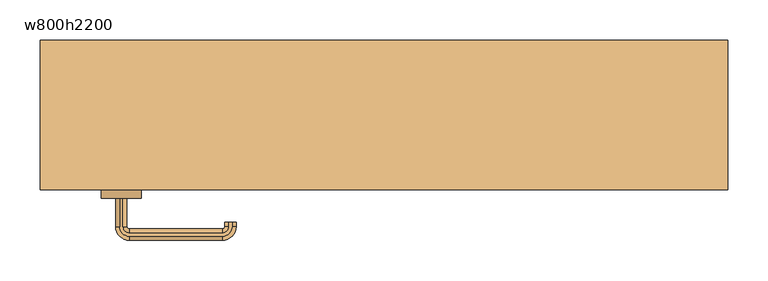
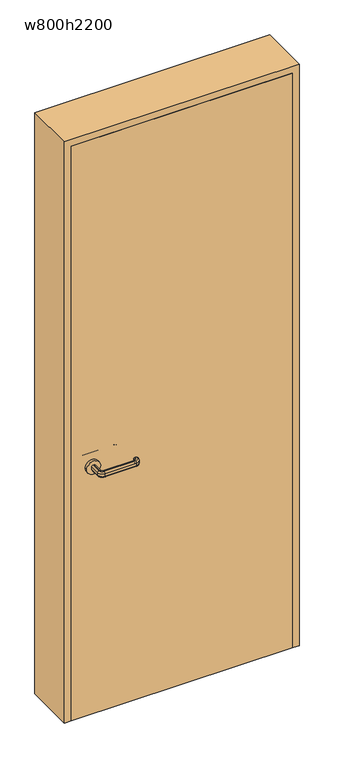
"""IFC4 building model written with IfcOpenShell, lengths in millimetres: door geometry, 片開き : w800h2200."""

from ifc_helpers import new_model, si_unit, point, frame, frame_2d, origin, origin_with_axes, place, context, project, spatial, polyline, circle_curve, ellipse_curve, trimmed, segment, composite_curve, outline, extrude, source, transform, mapped, element, save
from ifc_brep_helpers import plane_surface, cylinder_surface, revolved_surface, advanced_brep


def w800h2200_4894828d(model_context):
    return source(origin(), model_context, "Body", "SolidModel", [
        advanced_brep(
        [(-327.0, -102.5, 960.0), (-323.0, -102.5, 960.0), (-318.0, -102.5, 955.0), (-318.0, -102.5, 945.0477623), (-323.0, -102.5, 940.0477623), (-327.0, -102.5, 940.0477623), (-332.0, -102.5, 945.0477623), (-332.0, -102.5, 955.0), (-332.0, -137.5, 955.0), (-327.0, -137.5, 960.0), (-332.0, -137.5, 945.0477623), (-327.0, -137.5, 940.0477623), (-323.0, -137.5, 940.0477623), (-315.0, -145.5, 940.0477623), (-200.0, -145.5, 940.0477623), (-192.0, -137.5, 940.0477623), (-192.0, -132.5, 940.0477623), (-188.0, -132.5, 940.0477623), (-188.0, -137.5, 940.0477623), (-200.0, -149.5, 940.0477623), (-315.0, -149.5, 940.0477623), (-318.0, -137.5, 945.0477623), (-318.0, -137.5, 955.0), (-323.0, -137.5, 960.0), (-315.0, -149.5, 960.0), (-200.0, -149.5, 960.0), (-188.0, -137.5, 960.0), (-188.0, -132.5, 960.0), (-192.0, -132.5, 960.0), (-192.0, -137.5, 960.0), (-200.0, -145.5, 960.0), (-315.0, -145.5, 960.0), (-315.0, -154.5, 955.0), (-315.0, -154.5, 945.0477623), (-315.0, -140.5, 945.0477623), (-315.0, -140.5, 955.0), (-200.0, -154.5, 955.0), (-200.0, -154.5, 945.0477623), (-200.0, -140.5, 945.0477623), (-200.0, -140.5, 955.0), (-183.0, -137.5, 955.0), (-183.0, -137.5, 945.0477623), (-197.0, -137.5, 945.0477623), (-197.0, -137.5, 955.0), (-183.0, -132.5, 955.0), (-183.0, -132.5, 945.0477623), (-197.0, -132.5, 945.0477623), (-197.0, -132.5, 955.0)],
        [
            (0, 1),
            (1, 2, circle_curve(frame((-323.0, -102.5, 955.0), z_axis=(0.0, 1.0, 0.0), x_axis=(-1.0, 0.0, 0.0)), 5.0)),
            (2, 3),
            (3, 4, circle_curve(frame((-323.0, -102.5, 945.0477623), z_axis=(0.0, 1.0, 0.0), x_axis=(-1.0, 0.0, 0.0)), 5.0)),
            (4, 5),
            (5, 6, circle_curve(frame((-327.0, -102.5, 945.0477623), z_axis=(0.0, 1.0, 0.0), x_axis=(-1.0, 0.0, 0.0)), 5.0)),
            (6, 7),
            (7, 0, circle_curve(frame((-327.0, -102.5, 955.0), z_axis=(0.0, 1.0, 0.0), x_axis=(-1.0, 0.0, 0.0)), 5.0)),
            (7, 8),
            (8, 9, circle_curve(frame((-327.0, -137.5, 955.0), z_axis=(0.0, 1.0, 0.0), x_axis=(-1.0, 0.0, 0.0)), 5.0)),
            (9, 0),
            (6, 10),
            (10, 8),
            (5, 11),
            (11, 10, circle_curve(frame((-327.0, -137.5, 945.0477623), z_axis=(0.0, 1.0, 0.0), x_axis=(-1.0, 0.0, 0.0)), 5.0)),
            (4, 12),
            (12, 13, circle_curve(frame((-315.0, -137.5, 940.0477623), z_axis=(0.0, 0.0, 1.0), x_axis=(-1.0, 0.0, 0.0)), 8.0)),
            (13, 14),
            (14, 15, circle_curve(frame((-200.0, -137.5, 940.0477623), z_axis=(0.0, 0.0, 1.0), x_axis=(0.0, -1.0, 0.0)), 8.0)),
            (15, 16),
            (16, 17),
            (17, 18),
            (18, 19, circle_curve(frame((-200.0, -137.5, 940.0477623), z_axis=(0.0, 0.0, -1.0), x_axis=(0.0, -1.0, 0.0)), 12.0)),
            (19, 20),
            (20, 11, circle_curve(frame((-315.0, -137.5, 940.0477623), z_axis=(0.0, 0.0, -1.0), x_axis=(-1.0, 0.0, 0.0)), 12.0)),
            (3, 21),
            (21, 12, circle_curve(frame((-323.0, -137.5, 945.0477623), z_axis=(0.0, 1.0, 0.0), x_axis=(-1.0, 0.0, 0.0)), 5.0)),
            (2, 22),
            (22, 21),
            (1, 23),
            (23, 22, circle_curve(frame((-323.0, -137.5, 955.0), z_axis=(0.0, 1.0, 0.0), x_axis=(-1.0, 0.0, 0.0)), 5.0)),
            (9, 24, circle_curve(frame((-315.0, -137.5, 960.0), z_axis=(0.0, 0.0, 1.0), x_axis=(-1.0, 0.0, 0.0)), 12.0)),
            (24, 25),
            (25, 26, circle_curve(frame((-200.0, -137.5, 960.0), z_axis=(0.0, 0.0, 1.0), x_axis=(0.0, -1.0, 0.0)), 12.0)),
            (26, 27),
            (27, 28),
            (28, 29),
            (29, 30, circle_curve(frame((-200.0, -137.5, 960.0), z_axis=(0.0, 0.0, -1.0), x_axis=(0.0, -1.0, 0.0)), 8.0)),
            (30, 31),
            (31, 23, circle_curve(frame((-315.0, -137.5, 960.0), z_axis=(0.0, 0.0, -1.0), x_axis=(-1.0, 0.0, 0.0)), 8.0)),
            (32, 24, circle_curve(frame((-315.0, -149.5, 955.0), z_axis=(-1.0, 0.0, 0.0), x_axis=(0.0, -1.0, 0.0)), 5.0)),
            (8, 32, circle_curve(frame((-315.0, -137.5, 955.0), z_axis=(0.0, 0.0, 1.0), x_axis=(-1.0, 0.0, 0.0)), 17.0)),
            (33, 32),
            (10, 33, circle_curve(frame((-315.0, -137.5, 945.0477623), z_axis=(0.0, 0.0, 1.0), x_axis=(-1.0, 0.0, 0.0)), 17.0)),
            (20, 33, circle_curve(frame((-315.0, -149.5, 945.0477623), z_axis=(-1.0, 0.0, 0.0), x_axis=(0.0, -1.0, 0.0)), 5.0)),
            (34, 13, circle_curve(frame((-315.0, -145.5, 945.0477623), z_axis=(-1.0, 0.0, 0.0), x_axis=(0.0, -1.0, 0.0)), 5.0)),
            (21, 34, circle_curve(frame((-315.0, -137.5, 945.0477623), z_axis=(0.0, 0.0, 1.0), x_axis=(-1.0, 0.0, 0.0)), 3.0)),
            (35, 34),
            (22, 35, circle_curve(frame((-315.0, -137.5, 955.0), z_axis=(0.0, 0.0, 1.0), x_axis=(-1.0, 0.0, 0.0)), 3.0)),
            (31, 35, circle_curve(frame((-315.0, -145.5, 955.0), z_axis=(-1.0, 0.0, 0.0), x_axis=(0.0, -1.0, 0.0)), 5.0)),
            (32, 36),
            (36, 25, circle_curve(frame((-200.0, -149.5, 955.0), z_axis=(-1.0, 0.0, 0.0), x_axis=(0.0, -1.0, 0.0)), 5.0)),
            (33, 37),
            (37, 36),
            (19, 37, circle_curve(frame((-200.0, -149.5, 945.0477623), z_axis=(-1.0, 0.0, 0.0), x_axis=(0.0, -1.0, 0.0)), 5.0)),
            (34, 38),
            (38, 14, circle_curve(frame((-200.0, -145.5, 945.0477623), z_axis=(-1.0, 0.0, 0.0), x_axis=(0.0, -1.0, 0.0)), 5.0)),
            (35, 39),
            (39, 38),
            (30, 39, circle_curve(frame((-200.0, -145.5, 955.0), z_axis=(-1.0, 0.0, 0.0), x_axis=(0.0, -1.0, 0.0)), 5.0)),
            (40, 26, circle_curve(frame((-188.0, -137.5, 955.0), z_axis=(0.0, -1.0, 0.0), x_axis=(1.0, 0.0, 0.0)), 5.0)),
            (36, 40, circle_curve(frame((-200.0, -137.5, 955.0), z_axis=(0.0, 0.0, 1.0), x_axis=(0.0, -1.0, 0.0)), 17.0)),
            (41, 40),
            (37, 41, circle_curve(frame((-200.0, -137.5, 945.0477623), z_axis=(0.0, 0.0, 1.0), x_axis=(0.0, -1.0, 0.0)), 17.0)),
            (18, 41, circle_curve(frame((-188.0, -137.5, 945.0477623), z_axis=(0.0, -1.0, 0.0), x_axis=(1.0, 0.0, 0.0)), 5.0)),
            (42, 15, circle_curve(frame((-192.0, -137.5, 945.0477623), z_axis=(0.0, -1.0, 0.0), x_axis=(1.0, 0.0, 0.0)), 5.0)),
            (38, 42, circle_curve(frame((-200.0, -137.5, 945.0477623), z_axis=(0.0, 0.0, 1.0), x_axis=(0.0, -1.0, 0.0)), 3.0)),
            (43, 42),
            (39, 43, circle_curve(frame((-200.0, -137.5, 955.0), z_axis=(0.0, 0.0, 1.0), x_axis=(0.0, -1.0, 0.0)), 3.0)),
            (29, 43, circle_curve(frame((-192.0, -137.5, 955.0), z_axis=(0.0, -1.0, 0.0), x_axis=(1.0, 0.0, 0.0)), 5.0)),
            (27, 44, circle_curve(frame((-188.0, -132.5, 955.0), z_axis=(0.0, 1.0, 0.0), x_axis=(1.0, 0.0, 0.0)), 5.0)),
            (44, 45),
            (45, 17, circle_curve(frame((-188.0, -132.5, 945.0477623), z_axis=(0.0, 1.0, 0.0), x_axis=(1.0, 0.0, 0.0)), 5.0)),
            (16, 46, circle_curve(frame((-192.0, -132.5, 945.0477623), z_axis=(0.0, 1.0, 0.0), x_axis=(1.0, 0.0, 0.0)), 5.0)),
            (46, 47),
            (47, 28, circle_curve(frame((-192.0, -132.5, 955.0), z_axis=(0.0, 1.0, 0.0), x_axis=(1.0, 0.0, 0.0)), 5.0)),
            (40, 44),
            (41, 45),
            (42, 46),
            (43, 47),
        ],
        [
            plane_surface(frame((-335.198039, -102.5, 950.0), z_axis=(0.0, 1.0, 0.0), x_axis=(0.0, 0.0, 1.0))),
            cylinder_surface(frame((-327.0, -102.5, 955.0), z_axis=(0.0, 1.0, 0.0), x_axis=(-1.0, 0.0, 0.0)), 5.0),
            plane_surface(frame((-332.0, -102.5, 955.0), z_axis=(-1.0, 0.0, 0.0), x_axis=(0.0, -1.0, 0.0))),
            cylinder_surface(frame((-327.0, -102.5, 945.0477623), z_axis=(0.0, 1.0, 0.0), x_axis=(-1.0, 0.0, 0.0)), 5.0),
            plane_surface(frame((-327.0, -102.5, 940.0477623), z_axis=(0.0, 0.0, -1.0), x_axis=(0.0, -1.0, 0.0))),
            cylinder_surface(frame((-323.0, -102.5, 945.0477623), z_axis=(0.0, 1.0, 0.0), x_axis=(-1.0, 0.0, 0.0)), 5.0),
            plane_surface(frame((-318.0, -102.5, 945.0477623), z_axis=(1.0, 0.0, 0.0), x_axis=(0.0, -1.0, 0.0))),
            cylinder_surface(frame((-323.0, -102.5, 955.0), z_axis=(0.0, 1.0, 0.0), x_axis=(-1.0, 0.0, 0.0)), 5.0),
            plane_surface(frame((-323.0, -102.5, 960.0), z_axis=(0.0, 0.0, 1.0), x_axis=(0.0, -1.0, 0.0))),
            revolved_surface(trimmed(ellipse_curve(frame((-327.0, -137.5, 955.0), z_axis=(0.0, -1.0, 0.0), x_axis=(-1.0, 0.0, 0.0)), 5.0, 5.0), [point((-327.0, -137.5, 960.0))], [point((-332.0, -137.5, 955.0))], True, "CARTESIAN"), (-315.0, -137.5, 950.0), (0.0, 0.0, -1.0)),
            cylinder_surface(frame((-315.0, -137.5, 950.0), z_axis=(0.0, 0.0, -1.0), x_axis=(-1.0, 0.0, 0.0)), 17.0),
            revolved_surface(trimmed(ellipse_curve(frame((-327.0, -137.5, 945.0477623), z_axis=(0.0, -1.0, 0.0), x_axis=(-1.0, 0.0, 0.0)), 5.0, 5.0), [point((-332.0, -137.5, 945.0477623))], [point((-327.0, -137.5, 940.0477623))], True, "CARTESIAN"), (-315.0, -137.5, 950.0), (0.0, 0.0, -1.0)),
            revolved_surface(trimmed(ellipse_curve(frame((-323.0, -137.5, 945.0477623), z_axis=(0.0, -1.0, 0.0), x_axis=(-1.0, 0.0, 0.0)), 5.0, 5.0), [point((-323.0, -137.5, 940.0477623))], [point((-318.0, -137.5, 945.0477623))], True, "CARTESIAN"), (-315.0, -137.5, 950.0), (0.0, 0.0, -1.0)),
            revolved_surface(polyline([(-318.0, -137.5, 945.0477623), (-318.0, -137.5, 955.0)]), (-315.0, -137.5, 950.0), (0.0, 0.0, -1.0)),
            revolved_surface(trimmed(ellipse_curve(frame((-323.0, -137.5, 955.0), z_axis=(0.0, -1.0, 0.0), x_axis=(-1.0, 0.0, 0.0)), 5.0, 5.0), [point((-318.0, -137.5, 955.0))], [point((-323.0, -137.5, 960.0))], True, "CARTESIAN"), (-315.0, -137.5, 950.0), (0.0, 0.0, -1.0)),
            cylinder_surface(frame((-315.0, -149.5, 955.0), z_axis=(-1.0, 0.0, 0.0), x_axis=(0.0, -1.0, 0.0)), 5.0),
            plane_surface(frame((-315.0, -154.5, 955.0), z_axis=(0.0, -1.0, 0.0), x_axis=(1.0, 0.0, 0.0))),
            cylinder_surface(frame((-315.0, -149.5, 945.0477623), z_axis=(-1.0, 0.0, 0.0), x_axis=(0.0, -1.0, 0.0)), 5.0),
            cylinder_surface(frame((-315.0, -145.5, 945.0477623), z_axis=(-1.0, 0.0, 0.0), x_axis=(0.0, -1.0, 0.0)), 5.0),
            plane_surface(frame((-315.0, -140.5, 945.0477623), z_axis=(0.0, 1.0, 0.0), x_axis=(1.0, 0.0, 0.0))),
            cylinder_surface(frame((-315.0, -145.5, 955.0), z_axis=(-1.0, 0.0, 0.0), x_axis=(0.0, -1.0, 0.0)), 5.0),
            revolved_surface(trimmed(ellipse_curve(frame((-200.0, -149.5, 955.0), z_axis=(1.0, 0.0, 0.0), x_axis=(0.0, -1.0, 0.0)), 5.0, 5.0), [point((-200.0, -149.5, 960.0))], [point((-200.0, -154.5, 955.0))], True, "CARTESIAN"), (-200.0, -137.5, 950.0), (0.0, 0.0, -1.0)),
            cylinder_surface(frame((-200.0, -137.5, 950.0), z_axis=(0.0, 0.0, -1.0), x_axis=(0.0, -1.0, 0.0)), 17.0),
            revolved_surface(trimmed(ellipse_curve(frame((-200.0, -149.5, 945.0477623), z_axis=(1.0, 0.0, 0.0), x_axis=(0.0, -1.0, 0.0)), 5.0, 5.0), [point((-200.0, -154.5, 945.0477623))], [point((-200.0, -149.5, 940.0477623))], True, "CARTESIAN"), (-200.0, -137.5, 950.0), (0.0, 0.0, -1.0)),
            revolved_surface(trimmed(ellipse_curve(frame((-200.0, -145.5, 945.0477623), z_axis=(1.0, 0.0, 0.0), x_axis=(0.0, -1.0, 0.0)), 5.0, 5.0), [point((-200.0, -145.5, 940.0477623))], [point((-200.0, -140.5, 945.0477623))], True, "CARTESIAN"), (-200.0, -137.5, 950.0), (0.0, 0.0, -1.0)),
            revolved_surface(polyline([(-200.0, -140.5, 945.0477623), (-200.0, -140.5, 955.0)]), (-200.0, -137.5, 950.0), (0.0, 0.0, -1.0)),
            revolved_surface(trimmed(ellipse_curve(frame((-200.0, -145.5, 955.0), z_axis=(1.0, 0.0, 0.0), x_axis=(0.0, -1.0, 0.0)), 5.0, 5.0), [point((-200.0, -140.5, 955.0))], [point((-200.0, -145.5, 960.0))], True, "CARTESIAN"), (-200.0, -137.5, 950.0), (0.0, 0.0, -1.0)),
            plane_surface(frame((-200.198039, -132.5, 950.0), z_axis=(0.0, 1.0, 0.0), x_axis=(0.0, 0.0, -1.0))),
            cylinder_surface(frame((-188.0, -137.5, 955.0), z_axis=(0.0, -1.0, 0.0), x_axis=(1.0, 0.0, 0.0)), 5.0),
            plane_surface(frame((-183.0, -137.5, 955.0), z_axis=(1.0, 0.0, 0.0), x_axis=(0.0, 1.0, 0.0))),
            cylinder_surface(frame((-188.0, -137.5, 945.0477623), z_axis=(0.0, -1.0, 0.0), x_axis=(1.0, 0.0, 0.0)), 5.0),
            cylinder_surface(frame((-192.0, -137.5, 945.0477623), z_axis=(0.0, -1.0, 0.0), x_axis=(1.0, 0.0, 0.0)), 5.0),
            plane_surface(frame((-197.0, -137.5, 945.0477623), z_axis=(-1.0, 0.0, 0.0), x_axis=(0.0, 1.0, 0.0))),
            cylinder_surface(frame((-192.0, -137.5, 955.0), z_axis=(0.0, -1.0, 0.0), x_axis=(1.0, 0.0, 0.0)), 5.0),
        ],
        [
            (0, [[1, 2, 3, 4, 5, 6, 7, 8]]),
            (1, [[9, 10, 11, -8]]),
            (2, [[12, 13, -9, -7]]),
            (3, [[14, 15, -12, -6]]),
            (4, [[16, 17, 18, 19, 20, 21, 22, 23, 24, 25, -14, -5]]),
            (5, [[26, 27, -16, -4]]),
            (6, [[28, 29, -26, -3]]),
            (7, [[30, 31, -28, -2]]),
            (8, [[-11, 32, 33, 34, 35, 36, 37, 38, 39, 40, -30, -1]]),
            (9, [[41, -32, -10, 42]]),
            (10, [[43, -42, -13, 44]]),
            (11, [[45, -44, -15, -25]]),
            (12, [[46, -17, -27, 47]]),
            (13, [[48, -47, -29, 49]]),
            (14, [[50, -49, -31, -40]]),
            (15, [[51, 52, -33, -41]]),
            (16, [[53, 54, -51, -43]]),
            (17, [[-24, 55, -53, -45]]),
            (18, [[56, 57, -18, -46]]),
            (19, [[58, 59, -56, -48]]),
            (20, [[-39, 60, -58, -50]]),
            (21, [[61, -34, -52, 62]]),
            (22, [[63, -62, -54, 64]]),
            (23, [[65, -64, -55, -23]]),
            (24, [[66, -19, -57, 67]]),
            (25, [[68, -67, -59, 69]]),
            (26, [[70, -69, -60, -38]]),
            (27, [[71, 72, 73, -21, 74, 75, 76, -36]]),
            (28, [[77, -71, -35, -61]]),
            (29, [[78, -72, -77, -63]]),
            (30, [[-22, -73, -78, -65]]),
            (31, [[79, -74, -20, -66]]),
            (32, [[80, -75, -79, -68]]),
            (33, [[-37, -76, -80, -70]]),
        ],
    ),
        advanced_brep(
        [(-323.0, -57.5, 940.0), (-318.0, -57.5, 945.0), (-318.0, -57.5, 955.0), (-323.0, -57.5, 960.0), (-327.0, -57.5, 960.0), (-332.0, -57.5, 955.0), (-332.0, -57.5, 945.0), (-327.0, -57.5, 940.0), (-327.0, -22.5, 940.0), (-315.0, -10.5, 940.0), (-200.0, -10.5, 940.0), (-188.0, -22.5, 940.0), (-188.0, -27.5, 940.0), (-192.0, -27.5, 940.0), (-192.0, -22.5, 940.0), (-200.0, -14.5, 940.0), (-315.0, -14.5, 940.0), (-323.0, -22.5, 940.0), (-332.0, -22.5, 945.0), (-332.0, -22.5, 955.0), (-327.0, -22.5, 960.0), (-323.0, -22.5, 960.0), (-315.0, -14.5, 960.0), (-200.0, -14.5, 960.0), (-192.0, -22.5, 960.0), (-192.0, -27.5, 960.0), (-188.0, -27.5, 960.0), (-188.0, -22.5, 960.0), (-200.0, -10.5, 960.0), (-315.0, -10.5, 960.0), (-318.0, -22.5, 955.0), (-318.0, -22.5, 945.0), (-315.0, -5.5, 945.0), (-315.0, -5.5, 955.0), (-315.0, -19.5, 955.0), (-315.0, -19.5, 945.0), (-200.0, -5.5, 945.0), (-200.0, -5.5, 955.0), (-200.0, -19.5, 955.0), (-200.0, -19.5, 945.0), (-183.0, -22.5, 945.0), (-183.0, -22.5, 955.0), (-197.0, -22.5, 955.0), (-197.0, -22.5, 945.0), (-183.0, -27.5, 945.0), (-183.0, -27.5, 955.0), (-197.0, -27.5, 955.0), (-197.0, -27.5, 945.0)],
        [
            (0, 1, circle_curve(frame((-323.0, -57.5, 945.0), z_axis=(0.0, -1.0, 0.0), x_axis=(1.0, 0.0, 0.0)), 5.0)),
            (1, 2),
            (2, 3, circle_curve(frame((-323.0, -57.5, 955.0), z_axis=(0.0, -1.0, 0.0), x_axis=(1.0, 0.0, 0.0)), 5.0)),
            (3, 4),
            (4, 5, circle_curve(frame((-327.0, -57.5, 955.0), z_axis=(0.0, -1.0, 0.0), x_axis=(1.0, 0.0, 0.0)), 5.0)),
            (5, 6),
            (6, 7, circle_curve(frame((-327.0, -57.5, 945.0), z_axis=(0.0, -1.0, 0.0), x_axis=(1.0, 0.0, 0.0)), 5.0)),
            (7, 0),
            (7, 8),
            (8, 9, circle_curve(frame((-315.0, -22.5, 940.0), z_axis=(0.0, 0.0, -1.0), x_axis=(-1.0, 0.0, 0.0)), 12.0)),
            (9, 10),
            (10, 11, circle_curve(frame((-200.0, -22.5, 940.0), z_axis=(0.0, 0.0, -1.0), x_axis=(0.0, 1.0, 0.0)), 12.0)),
            (11, 12),
            (12, 13),
            (13, 14),
            (14, 15, circle_curve(frame((-200.0, -22.5, 940.0), z_axis=(0.0, 0.0, 1.0), x_axis=(0.0, 1.0, 0.0)), 8.0)),
            (15, 16),
            (16, 17, circle_curve(frame((-315.0, -22.5, 940.0), z_axis=(0.0, 0.0, 1.0), x_axis=(-1.0, 0.0, 0.0)), 8.0)),
            (17, 0),
            (6, 18),
            (18, 8, circle_curve(frame((-327.0, -22.5, 945.0), z_axis=(0.0, -1.0, 0.0), x_axis=(1.0, 0.0, 0.0)), 5.0)),
            (5, 19),
            (19, 18),
            (4, 20),
            (20, 19, circle_curve(frame((-327.0, -22.5, 955.0), z_axis=(0.0, -1.0, 0.0), x_axis=(1.0, 0.0, 0.0)), 5.0)),
            (3, 21),
            (21, 22, circle_curve(frame((-315.0, -22.5, 960.0), z_axis=(0.0, 0.0, -1.0), x_axis=(-1.0, 0.0, 0.0)), 8.0)),
            (22, 23),
            (23, 24, circle_curve(frame((-200.0, -22.5, 960.0), z_axis=(0.0, 0.0, -1.0), x_axis=(0.0, 1.0, 0.0)), 8.0)),
            (24, 25),
            (25, 26),
            (26, 27),
            (27, 28, circle_curve(frame((-200.0, -22.5, 960.0), z_axis=(0.0, 0.0, 1.0), x_axis=(0.0, 1.0, 0.0)), 12.0)),
            (28, 29),
            (29, 20, circle_curve(frame((-315.0, -22.5, 960.0), z_axis=(0.0, 0.0, 1.0), x_axis=(-1.0, 0.0, 0.0)), 12.0)),
            (2, 30),
            (30, 21, circle_curve(frame((-323.0, -22.5, 955.0), z_axis=(0.0, -1.0, 0.0), x_axis=(1.0, 0.0, 0.0)), 5.0)),
            (1, 31),
            (31, 30),
            (17, 31, circle_curve(frame((-323.0, -22.5, 945.0), z_axis=(0.0, -1.0, 0.0), x_axis=(1.0, 0.0, 0.0)), 5.0)),
            (32, 9, circle_curve(frame((-315.0, -10.5, 945.0), z_axis=(-1.0, 0.0, 0.0), x_axis=(0.0, -1.0, 0.0)), 5.0)),
            (18, 32, circle_curve(frame((-315.0, -22.5, 945.0), z_axis=(0.0, 0.0, -1.0), x_axis=(-1.0, 0.0, 0.0)), 17.0)),
            (33, 32),
            (19, 33, circle_curve(frame((-315.0, -22.5, 955.0), z_axis=(0.0, 0.0, -1.0), x_axis=(-1.0, 0.0, 0.0)), 17.0)),
            (29, 33, circle_curve(frame((-315.0, -10.5, 955.0), z_axis=(-1.0, 0.0, 0.0), x_axis=(0.0, -1.0, 0.0)), 5.0)),
            (34, 22, circle_curve(frame((-315.0, -14.5, 955.0), z_axis=(-1.0, 0.0, 0.0), x_axis=(0.0, -1.0, 0.0)), 5.0)),
            (30, 34, circle_curve(frame((-315.0, -22.5, 955.0), z_axis=(0.0, 0.0, -1.0), x_axis=(-1.0, 0.0, 0.0)), 3.0)),
            (35, 34),
            (31, 35, circle_curve(frame((-315.0, -22.5, 945.0), z_axis=(0.0, 0.0, -1.0), x_axis=(-1.0, 0.0, 0.0)), 3.0)),
            (16, 35, circle_curve(frame((-315.0, -14.5, 945.0), z_axis=(-1.0, 0.0, 0.0), x_axis=(0.0, -1.0, 0.0)), 5.0)),
            (32, 36),
            (36, 10, circle_curve(frame((-200.0, -10.5, 945.0), z_axis=(-1.0, 0.0, 0.0), x_axis=(0.0, -1.0, 0.0)), 5.0)),
            (33, 37),
            (37, 36),
            (28, 37, circle_curve(frame((-200.0, -10.5, 955.0), z_axis=(-1.0, 0.0, 0.0), x_axis=(0.0, -1.0, 0.0)), 5.0)),
            (34, 38),
            (38, 23, circle_curve(frame((-200.0, -14.5, 955.0), z_axis=(-1.0, 0.0, 0.0), x_axis=(0.0, -1.0, 0.0)), 5.0)),
            (35, 39),
            (39, 38),
            (15, 39, circle_curve(frame((-200.0, -14.5, 945.0), z_axis=(-1.0, 0.0, 0.0), x_axis=(0.0, -1.0, 0.0)), 5.0)),
            (40, 11, circle_curve(frame((-188.0, -22.5, 945.0), z_axis=(0.0, 1.0, 0.0), x_axis=(-1.0, 0.0, 0.0)), 5.0)),
            (36, 40, circle_curve(frame((-200.0, -22.5, 945.0), z_axis=(0.0, 0.0, -1.0), x_axis=(0.0, 1.0, 0.0)), 17.0)),
            (41, 40),
            (37, 41, circle_curve(frame((-200.0, -22.5, 955.0), z_axis=(0.0, 0.0, -1.0), x_axis=(0.0, 1.0, 0.0)), 17.0)),
            (27, 41, circle_curve(frame((-188.0, -22.5, 955.0), z_axis=(0.0, 1.0, 0.0), x_axis=(-1.0, 0.0, 0.0)), 5.0)),
            (42, 24, circle_curve(frame((-192.0, -22.5, 955.0), z_axis=(0.0, 1.0, 0.0), x_axis=(-1.0, 0.0, 0.0)), 5.0)),
            (38, 42, circle_curve(frame((-200.0, -22.5, 955.0), z_axis=(0.0, 0.0, -1.0), x_axis=(0.0, 1.0, 0.0)), 3.0)),
            (43, 42),
            (39, 43, circle_curve(frame((-200.0, -22.5, 945.0), z_axis=(0.0, 0.0, -1.0), x_axis=(0.0, 1.0, 0.0)), 3.0)),
            (14, 43, circle_curve(frame((-192.0, -22.5, 945.0), z_axis=(0.0, 1.0, 0.0), x_axis=(-1.0, 0.0, 0.0)), 5.0)),
            (12, 44, circle_curve(frame((-188.0, -27.5, 945.0), z_axis=(0.0, -1.0, 0.0), x_axis=(-1.0, 0.0, 0.0)), 5.0)),
            (44, 45),
            (45, 26, circle_curve(frame((-188.0, -27.5, 955.0), z_axis=(0.0, -1.0, 0.0), x_axis=(-1.0, 0.0, 0.0)), 5.0)),
            (25, 46, circle_curve(frame((-192.0, -27.5, 955.0), z_axis=(0.0, -1.0, 0.0), x_axis=(-1.0, 0.0, 0.0)), 5.0)),
            (46, 47),
            (47, 13, circle_curve(frame((-192.0, -27.5, 945.0), z_axis=(0.0, -1.0, 0.0), x_axis=(-1.0, 0.0, 0.0)), 5.0)),
            (40, 44),
            (41, 45),
            (42, 46),
            (43, 47),
        ],
        [
            plane_surface(frame((-335.198039, -57.5, 950.0), z_axis=(0.0, -1.0, 0.0), x_axis=(0.0, 0.0, -1.0))),
            plane_surface(frame((-323.0, -57.5, 940.0), z_axis=(0.0, 0.0, -1.0), x_axis=(0.0, 1.0, 0.0))),
            cylinder_surface(frame((-327.0, -57.5, 945.0), z_axis=(0.0, -1.0, 0.0), x_axis=(1.0, 0.0, 0.0)), 5.0),
            plane_surface(frame((-332.0, -57.5, 945.0), z_axis=(-1.0, 0.0, 0.0), x_axis=(0.0, 1.0, 0.0))),
            cylinder_surface(frame((-327.0, -57.5, 955.0), z_axis=(0.0, -1.0, 0.0), x_axis=(1.0, 0.0, 0.0)), 5.0),
            plane_surface(frame((-327.0, -57.5, 960.0), z_axis=(0.0, 0.0, 1.0), x_axis=(0.0, 1.0, 0.0))),
            cylinder_surface(frame((-323.0, -57.5, 955.0), z_axis=(0.0, -1.0, 0.0), x_axis=(1.0, 0.0, 0.0)), 5.0),
            plane_surface(frame((-318.0, -57.5, 955.0), z_axis=(1.0, 0.0, 0.0), x_axis=(0.0, 1.0, 0.0))),
            cylinder_surface(frame((-323.0, -57.5, 945.0), z_axis=(0.0, -1.0, 0.0), x_axis=(1.0, 0.0, 0.0)), 5.0),
            revolved_surface(trimmed(ellipse_curve(frame((-327.0, -22.5, 945.0), z_axis=(0.0, 1.0, 0.0), x_axis=(1.0, 0.0, 0.0)), 5.0, 5.0), [point((-327.0, -22.5, 940.0))], [point((-332.0, -22.5, 945.0))], True, "CARTESIAN"), (-315.0, -22.5, 950.0), (0.0, 0.0, 1.0)),
            cylinder_surface(frame((-315.0, -22.5, 950.0), z_axis=(0.0, 0.0, 1.0), x_axis=(-1.0, 0.0, 0.0)), 17.0),
            revolved_surface(trimmed(ellipse_curve(frame((-327.0, -22.5, 955.0), z_axis=(0.0, 1.0, 0.0), x_axis=(1.0, 0.0, 0.0)), 5.0, 5.0), [point((-332.0, -22.5, 955.0))], [point((-327.0, -22.5, 960.0))], True, "CARTESIAN"), (-315.0, -22.5, 950.0), (0.0, 0.0, 1.0)),
            revolved_surface(trimmed(ellipse_curve(frame((-323.0, -22.5, 955.0), z_axis=(0.0, 1.0, 0.0), x_axis=(1.0, 0.0, 0.0)), 5.0, 5.0), [point((-323.0, -22.5, 960.0))], [point((-318.0, -22.5, 955.0))], True, "CARTESIAN"), (-315.0, -22.5, 950.0), (0.0, 0.0, 1.0)),
            revolved_surface(polyline([(-318.0, -22.5, 955.0), (-318.0, -22.5, 945.0)]), (-315.0, -22.5, 950.0), (0.0, 0.0, 1.0)),
            revolved_surface(trimmed(ellipse_curve(frame((-323.0, -22.5, 945.0), z_axis=(0.0, 1.0, 0.0), x_axis=(1.0, 0.0, 0.0)), 5.0, 5.0), [point((-318.0, -22.5, 945.0))], [point((-323.0, -22.5, 940.0))], True, "CARTESIAN"), (-315.0, -22.5, 950.0), (0.0, 0.0, 1.0)),
            cylinder_surface(frame((-315.0, -10.5, 945.0), z_axis=(-1.0, 0.0, 0.0), x_axis=(0.0, -1.0, 0.0)), 5.0),
            plane_surface(frame((-315.0, -5.5, 945.0), z_axis=(0.0, 1.0, 0.0), x_axis=(1.0, 0.0, 0.0))),
            cylinder_surface(frame((-315.0, -10.5, 955.0), z_axis=(-1.0, 0.0, 0.0), x_axis=(0.0, -1.0, 0.0)), 5.0),
            cylinder_surface(frame((-315.0, -14.5, 955.0), z_axis=(-1.0, 0.0, 0.0), x_axis=(0.0, -1.0, 0.0)), 5.0),
            plane_surface(frame((-315.0, -19.5, 955.0), z_axis=(0.0, -1.0, 0.0), x_axis=(1.0, 0.0, 0.0))),
            cylinder_surface(frame((-315.0, -14.5, 945.0), z_axis=(-1.0, 0.0, 0.0), x_axis=(0.0, -1.0, 0.0)), 5.0),
            revolved_surface(trimmed(ellipse_curve(frame((-200.0, -10.5, 945.0), z_axis=(1.0, 0.0, 0.0), x_axis=(0.0, -1.0, 0.0)), 5.0, 5.0), [point((-200.0, -10.5, 940.0))], [point((-200.0, -5.5, 945.0))], True, "CARTESIAN"), (-200.0, -22.5, 950.0), (0.0, 0.0, 1.0)),
            cylinder_surface(frame((-200.0, -22.5, 950.0), z_axis=(0.0, 0.0, 1.0), x_axis=(0.0, 1.0, 0.0)), 17.0),
            revolved_surface(trimmed(ellipse_curve(frame((-200.0, -10.5, 955.0), z_axis=(1.0, 0.0, 0.0), x_axis=(0.0, -1.0, 0.0)), 5.0, 5.0), [point((-200.0, -5.5, 955.0))], [point((-200.0, -10.5, 960.0))], True, "CARTESIAN"), (-200.0, -22.5, 950.0), (0.0, 0.0, 1.0)),
            revolved_surface(trimmed(ellipse_curve(frame((-200.0, -14.5, 955.0), z_axis=(1.0, 0.0, 0.0), x_axis=(0.0, -1.0, 0.0)), 5.0, 5.0), [point((-200.0, -14.5, 960.0))], [point((-200.0, -19.5, 955.0))], True, "CARTESIAN"), (-200.0, -22.5, 950.0), (0.0, 0.0, 1.0)),
            revolved_surface(polyline([(-200.0, -19.5, 955.0), (-200.0, -19.5, 945.0)]), (-200.0, -22.5, 950.0), (0.0, 0.0, 1.0)),
            revolved_surface(trimmed(ellipse_curve(frame((-200.0, -14.5, 945.0), z_axis=(1.0, 0.0, 0.0), x_axis=(0.0, -1.0, 0.0)), 5.0, 5.0), [point((-200.0, -19.5, 945.0))], [point((-200.0, -14.5, 940.0))], True, "CARTESIAN"), (-200.0, -22.5, 950.0), (0.0, 0.0, 1.0)),
            plane_surface(frame((-200.198039, -27.5, 950.0), z_axis=(0.0, -1.0, 0.0), x_axis=(0.0, 0.0, 1.0))),
            cylinder_surface(frame((-188.0, -22.5, 945.0), z_axis=(0.0, 1.0, 0.0), x_axis=(-1.0, 0.0, 0.0)), 5.0),
            plane_surface(frame((-183.0, -22.5, 945.0), z_axis=(1.0, 0.0, 0.0), x_axis=(0.0, -1.0, 0.0))),
            cylinder_surface(frame((-188.0, -22.5, 955.0), z_axis=(0.0, 1.0, 0.0), x_axis=(-1.0, 0.0, 0.0)), 5.0),
            cylinder_surface(frame((-192.0, -22.5, 955.0), z_axis=(0.0, 1.0, 0.0), x_axis=(-1.0, 0.0, 0.0)), 5.0),
            plane_surface(frame((-197.0, -22.5, 955.0), z_axis=(-1.0, 0.0, 0.0), x_axis=(0.0, -1.0, 0.0))),
            cylinder_surface(frame((-192.0, -22.5, 945.0), z_axis=(0.0, 1.0, 0.0), x_axis=(-1.0, 0.0, 0.0)), 5.0),
        ],
        [
            (0, [[1, 2, 3, 4, 5, 6, 7, 8]]),
            (1, [[9, 10, 11, 12, 13, 14, 15, 16, 17, 18, 19, -8]]),
            (2, [[20, 21, -9, -7]]),
            (3, [[22, 23, -20, -6]]),
            (4, [[24, 25, -22, -5]]),
            (5, [[26, 27, 28, 29, 30, 31, 32, 33, 34, 35, -24, -4]]),
            (6, [[36, 37, -26, -3]]),
            (7, [[38, 39, -36, -2]]),
            (8, [[-19, 40, -38, -1]]),
            (9, [[41, -10, -21, 42]]),
            (10, [[43, -42, -23, 44]]),
            (11, [[45, -44, -25, -35]]),
            (12, [[46, -27, -37, 47]]),
            (13, [[48, -47, -39, 49]]),
            (14, [[50, -49, -40, -18]]),
            (15, [[51, 52, -11, -41]]),
            (16, [[53, 54, -51, -43]]),
            (17, [[-34, 55, -53, -45]]),
            (18, [[56, 57, -28, -46]]),
            (19, [[58, 59, -56, -48]]),
            (20, [[-17, 60, -58, -50]]),
            (21, [[61, -12, -52, 62]]),
            (22, [[63, -62, -54, 64]]),
            (23, [[65, -64, -55, -33]]),
            (24, [[66, -29, -57, 67]]),
            (25, [[68, -67, -59, 69]]),
            (26, [[70, -69, -60, -16]]),
            (27, [[-14, 71, 72, 73, -31, 74, 75, 76]]),
            (28, [[77, -71, -13, -61]]),
            (29, [[78, -72, -77, -63]]),
            (30, [[-32, -73, -78, -65]]),
            (31, [[79, -74, -30, -66]]),
            (32, [[80, -75, -79, -68]]),
            (33, [[-15, -76, -80, -70]]),
        ],
    ),
        extrude(outline(composite_curve([segment(trimmed(circle_curve(frame_2d((950.0, -325.0)), 25.0), [point((950.0, -350.0))], [point((950.0, -300.0))], False, "CARTESIAN"), True, "CONTINUOUS"), segment(trimmed(circle_curve(frame_2d((950.0, -325.0)), 25.0), [point((950.0, -300.0))], [point((950.0, -350.0))], False, "CARTESIAN"), True, "CONTINUOUS")], self_intersect=False)), frame((0.0, -102.5, 0.0), z_axis=(0.0, 1.0, 0.0), x_axis=(0.0, 0.0, 1.0)), (0.0, 0.0, 1.0), 10.0),
        extrude(outline(composite_curve([segment(trimmed(circle_curve(frame_2d((950.0, -325.0)), 25.0), [point((950.0, -350.0))], [point((950.0, -300.0))], False, "CARTESIAN"), True, "CONTINUOUS"), segment(trimmed(circle_curve(frame_2d((950.0, -325.0)), 25.0), [point((950.0, -300.0))], [point((950.0, -350.0))], False, "CARTESIAN"), True, "CONTINUOUS")], self_intersect=False)), frame((0.0, -67.5, 0.0), z_axis=(0.0, 1.0, 0.0), x_axis=(0.0, 0.0, 1.0)), (0.0, 0.0, 1.0), 10.0),
        extrude(outline(polyline([(400.0, -67.5), (400.0, -92.5), (-400.0, -92.5), (-400.0, -67.5), (400.0, -67.5)])), origin_with_axes(), (0.0, 0.0, 1.0), 2200.0),
        extrude(outline(polyline([(2225.0, -425.0), (0.0, -425.0), (0.0, -400.0), (2200.0, -400.0), (2200.0, 400.0), (0.0, 400.0), (0.0, 425.0), (2225.0, 425.0), (2225.0, -425.0)])), frame((0.0, -92.5, 0.0), z_axis=(0.0, 1.0, 0.0), x_axis=(0.0, 0.0, 1.0)), (0.0, 0.0, 1.0), 185.0),
    ])


if __name__ == "__main__":
    model = new_model("IFC4")
    model_context = context("Model", 3, world=origin())
    ifc_project = project(units=[si_unit("LENGTHUNIT", "METRE", prefix="MILLI")], contexts=[model_context])
    site = spatial("IfcSite", under=ifc_project)
    building = spatial("IfcBuilding", under=site)
    placement = place(None, origin())
    w800h2200_shape = w800h2200_4894828d(model_context)
    element("IfcDoor", 1, ObjectType="片開き : w800h2200", at=placement, inside=building, context=model_context, shape_type="MappedRepresentation", body=[
        mapped(w800h2200_shape, transform((0.0, 0.0, 0.0), x_axis=(1.0, 0.0, 0.0), y_axis=(0.0, 1.0, 0.0), z_axis=(0.0, 0.0, 1.0))),
    ])
    save(model, "model.ifc")
